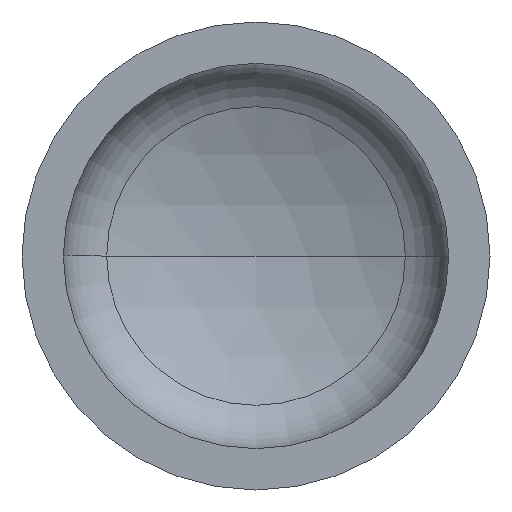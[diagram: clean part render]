
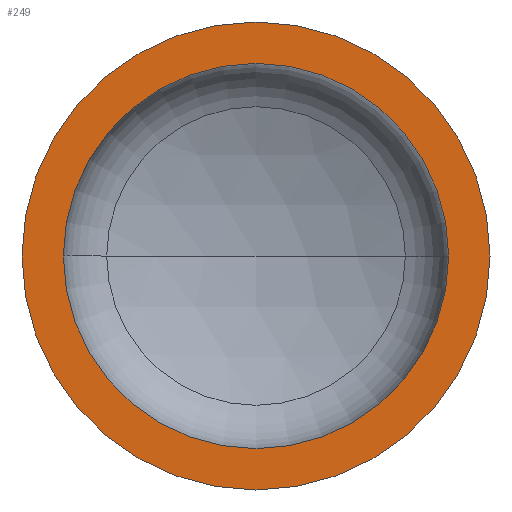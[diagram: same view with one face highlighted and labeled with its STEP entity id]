
A CAD part, front view. The second image highlights one B-rep face of the part: STEP entity #249.
In plain terms, the highlighted planar face has unit normal (0, -1, 0).
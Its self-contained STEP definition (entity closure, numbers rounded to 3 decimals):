
#25 = DIRECTION ( 'NONE',  ( -1., 0., 0. ) ) ;
#26 = AXIS2_PLACEMENT_3D ( 'NONE', #234, #30, #25 ) ;
#30 = DIRECTION ( 'NONE',  ( 0., 1., 0. ) ) ;
#31 = ORIENTED_EDGE ( 'NONE', *, *, #117, .F. ) ;
#34 = VERTEX_POINT ( 'NONE', #252 ) ;
#46 = AXIS2_PLACEMENT_3D ( 'NONE', #386, #170, #174 ) ;
#54 = VERTEX_POINT ( 'NONE', #247 ) ;
#62 = CIRCLE ( 'NONE', #72, 494. ) ;
#64 = EDGE_LOOP ( 'NONE', ( #31, #153 ) ) ;
#71 = AXIS2_PLACEMENT_3D ( 'NONE', #380, #298, #296 ) ;
#72 = AXIS2_PLACEMENT_3D ( 'NONE', #301, #299, #287 ) ;
#99 = ORIENTED_EDGE ( 'NONE', *, *, #114, .T. ) ;
#114 = EDGE_CURVE ( 'NONE', #119, #54, #376, .T. ) ;
#117 = EDGE_CURVE ( 'NONE', #227, #34, #62, .T. ) ;
#119 = VERTEX_POINT ( 'NONE', #342 ) ;
#153 = ORIENTED_EDGE ( 'NONE', *, *, #351, .F. ) ;
#154 = FACE_OUTER_BOUND ( 'NONE', #340, .T. ) ;
#159 = ORIENTED_EDGE ( 'NONE', *, *, #392, .T. ) ;
#169 = FACE_BOUND ( 'NONE', #64, .T. ) ;
#170 = DIRECTION ( 'NONE',  ( 0., -1., 0. ) ) ;
#174 = DIRECTION ( 'NONE',  ( 1., 0., 0. ) ) ;
#176 = CARTESIAN_POINT ( 'NONE',  ( 0., 0., 0. ) ) ;
#180 = PLANE ( 'NONE',  #26 ) ;
#212 = DIRECTION ( 'NONE',  ( 1., 0., 0. ) ) ;
#227 = VERTEX_POINT ( 'NONE', #243 ) ;
#234 = CARTESIAN_POINT ( 'NONE',  ( -600., 0., 0. ) ) ;
#243 = CARTESIAN_POINT ( 'NONE',  ( 494., 0., 0. ) ) ;
#247 = CARTESIAN_POINT ( 'NONE',  ( 600., 0., 0. ) ) ;
#249 = ADVANCED_FACE ( 'NONE', ( #169, #154 ), #180, .F. ) ;
#252 = CARTESIAN_POINT ( 'NONE',  ( -494., 0., 0. ) ) ;
#278 = CIRCLE ( 'NONE', #46, 494. ) ;
#287 = DIRECTION ( 'NONE',  ( 1., 0., 0. ) ) ;
#296 = DIRECTION ( 'NONE',  ( 1., 0., 0. ) ) ;
#298 = DIRECTION ( 'NONE',  ( 0., -1., 0. ) ) ;
#299 = DIRECTION ( 'NONE',  ( 0., -1., 0. ) ) ;
#301 = CARTESIAN_POINT ( 'NONE',  ( 0., 0., 0. ) ) ;
#340 = EDGE_LOOP ( 'NONE', ( #159, #99 ) ) ;
#342 = CARTESIAN_POINT ( 'NONE',  ( -600., 0., 0. ) ) ;
#349 = DIRECTION ( 'NONE',  ( 0., -1., 0. ) ) ;
#351 = EDGE_CURVE ( 'NONE', #34, #227, #278, .T. ) ;
#372 = AXIS2_PLACEMENT_3D ( 'NONE', #176, #349, #212 ) ;
#376 = CIRCLE ( 'NONE', #71, 600. ) ;
#377 = CIRCLE ( 'NONE', #372, 600. ) ;
#380 = CARTESIAN_POINT ( 'NONE',  ( 0., 0., 0. ) ) ;
#386 = CARTESIAN_POINT ( 'NONE',  ( 0., 0., 0. ) ) ;
#392 = EDGE_CURVE ( 'NONE', #54, #119, #377, .T. ) ;
